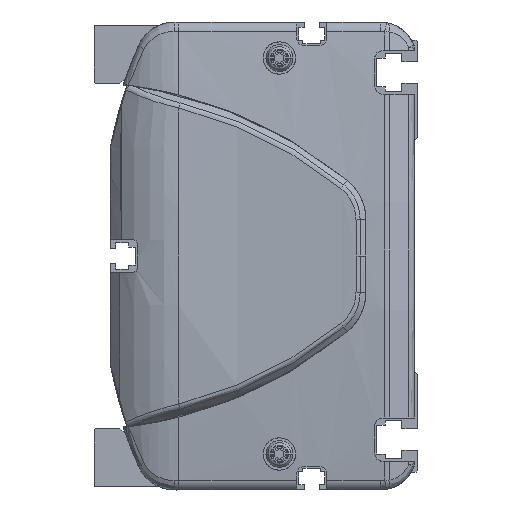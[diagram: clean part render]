
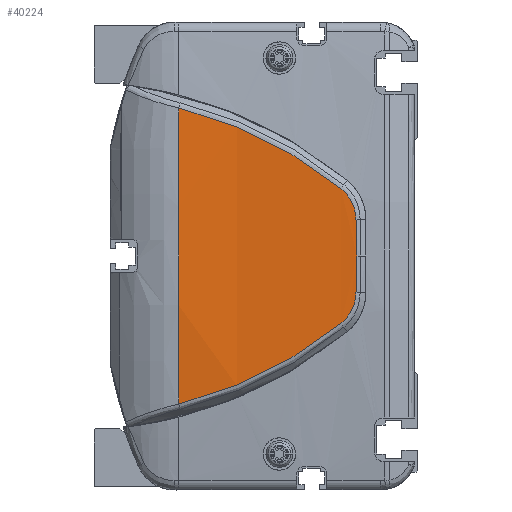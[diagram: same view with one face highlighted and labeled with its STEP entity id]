
A CAD part, left-side view. The second image highlights one B-rep face of the part: STEP entity #40224.
In plain terms, the highlighted cylindrical face has radius 500 mm (diameter 1000 mm), a partial arc.
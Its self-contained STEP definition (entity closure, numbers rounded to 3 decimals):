
#36484=CARTESIAN_POINT('',(486.,66.362,0.));
#36485=DIRECTION('',(0.,-1.,0.));
#36486=DIRECTION('',(-0.997,0.,0.082));
#36487=AXIS2_PLACEMENT_3D('',#36484,#36485,#36486);
#37378=CARTESIAN_POINT('',(-13.648,21.313,
-18.759));
#37379=CARTESIAN_POINT('',(-13.449,27.904,
-24.058));
#37380=CARTESIAN_POINT('',(-12.934,42.195,
-33.27));
#37381=CARTESIAN_POINT('',(-12.471,58.156,
-39.127));
#37382=CARTESIAN_POINT('',(-12.306,66.362,
-41.121));
#37384=CARTESIAN_POINT('',(-12.306,66.362,
41.121));
#37385=CARTESIAN_POINT('',(-12.471,58.156,
39.127));
#37386=CARTESIAN_POINT('',(-12.934,42.195,
33.27));
#37387=CARTESIAN_POINT('',(-13.449,27.904,
24.058));
#37388=CARTESIAN_POINT('',(-13.648,21.313,
18.759));
#37390=CARTESIAN_POINT('',(-13.648,21.313,
18.759));
#37391=CARTESIAN_POINT('',(-13.686,20.035,
17.736));
#37392=CARTESIAN_POINT('',(-13.779,17.936,
15.107));
#37393=CARTESIAN_POINT('',(-13.863,17.152,
11.827));
#37394=CARTESIAN_POINT('',(-13.896,17.124,
10.178));
#37396=CARTESIAN_POINT('',(-13.896,17.124,
10.178));
#37397=CARTESIAN_POINT('',(-13.92,17.107,
9.027));
#37398=CARTESIAN_POINT('',(-13.958,17.067,
6.738));
#37399=CARTESIAN_POINT('',(-13.993,16.98,
3.344));
#37400=CARTESIAN_POINT('',(-14.,16.898,
1.11));
#37401=CARTESIAN_POINT('',(-14.,16.849,
0.));
#37403=CARTESIAN_POINT('',(-14.,16.849,
0.));
#37404=CARTESIAN_POINT('',(-14.,16.898,
-1.11));
#37405=CARTESIAN_POINT('',(-13.993,16.98,
-3.344));
#37406=CARTESIAN_POINT('',(-13.958,17.067,
-6.737));
#37407=CARTESIAN_POINT('',(-13.92,17.107,
-9.029));
#37408=CARTESIAN_POINT('',(-13.896,17.124,
-10.18));
#37410=CARTESIAN_POINT('',(-13.896,17.124,
-10.18));
#37411=CARTESIAN_POINT('',(-13.863,17.152,
-11.828));
#37412=CARTESIAN_POINT('',(-13.779,17.937,
-15.109));
#37413=CARTESIAN_POINT('',(-13.686,20.035,
-17.736));
#37414=CARTESIAN_POINT('',(-13.648,21.313,
-18.759));
#38048=VERTEX_POINT('',#37378);
#38049=VERTEX_POINT('',#37382);
#38050=CARTESIAN_POINT('',(-12.306,66.362,
41.121));
#38051=VERTEX_POINT('',#38050);
#38052=VERTEX_POINT('',#37388);
#38053=VERTEX_POINT('',#37394);
#38054=VERTEX_POINT('',#37401);
#38055=VERTEX_POINT('',#37408);
#40205=CARTESIAN_POINT('',(486.,8.006,0.));
#40206=DIRECTION('',(0.,1.,0.));
#40207=DIRECTION('',(1.,0.,0.));
#40208=AXIS2_PLACEMENT_3D('',#40205,#40206,#40207);
#40209=CYLINDRICAL_SURFACE('',#40208,500.);
#40211=ORIENTED_EDGE('',*,*,#40210,.T.);
#40212=ORIENTED_EDGE('',*,*,#38850,.F.);
#40214=ORIENTED_EDGE('',*,*,#40213,.T.);
#40216=ORIENTED_EDGE('',*,*,#40215,.T.);
#40218=ORIENTED_EDGE('',*,*,#40217,.T.);
#40220=ORIENTED_EDGE('',*,*,#40219,.T.);
#40221=ORIENTED_EDGE('',*,*,#40195,.T.);
#40222=EDGE_LOOP('',(#40211,#40212,#40214,#40216,#40218,#40220,#40221));
#40223=FACE_OUTER_BOUND('',#40222,.F.);
#40224=ADVANCED_FACE('',(#40223),#40209,.T.);
#36488=CIRCLE('',#36487,500.);
#37383=B_SPLINE_CURVE_WITH_KNOTS('',3,(#37378,#37379,#37380,#37381,#37382),
.UNSPECIFIED.,.F.,.F.,(4,1,4),(0.,0.5,1.),.UNSPECIFIED.);
#37389=B_SPLINE_CURVE_WITH_KNOTS('',3,(#37384,#37385,#37386,#37387,#37388),
.UNSPECIFIED.,.F.,.F.,(4,1,4),(0.,0.5,1.),.UNSPECIFIED.);
#37395=B_SPLINE_CURVE_WITH_KNOTS('',3,(#37390,#37391,#37392,#37393,#37394),
.UNSPECIFIED.,.F.,.F.,(4,1,4),(0.,0.5,1.),.UNSPECIFIED.);
#37402=B_SPLINE_CURVE_WITH_KNOTS('',3,(#37396,#37397,#37398,#37399,#37400,
#37401),.UNSPECIFIED.,.F.,.F.,(4,1,1,4),(0.,0.333,
0.667,1.),.UNSPECIFIED.);
#37409=B_SPLINE_CURVE_WITH_KNOTS('',3,(#37403,#37404,#37405,#37406,#37407,
#37408),.UNSPECIFIED.,.F.,.F.,(4,1,1,4),(0.,0.333,
0.667,1.),.UNSPECIFIED.);
#37415=B_SPLINE_CURVE_WITH_KNOTS('',3,(#37410,#37411,#37412,#37413,#37414),
.UNSPECIFIED.,.F.,.F.,(4,1,4),(0.,0.5,1.),.UNSPECIFIED.);
#38850=EDGE_CURVE('',#38051,#38049,#36488,.T.);
#40195=EDGE_CURVE('',#38055,#38048,#37415,.T.);
#40210=EDGE_CURVE('',#38048,#38049,#37383,.T.);
#40213=EDGE_CURVE('',#38051,#38052,#37389,.T.);
#40215=EDGE_CURVE('',#38052,#38053,#37395,.T.);
#40217=EDGE_CURVE('',#38053,#38054,#37402,.T.);
#40219=EDGE_CURVE('',#38054,#38055,#37409,.T.);
